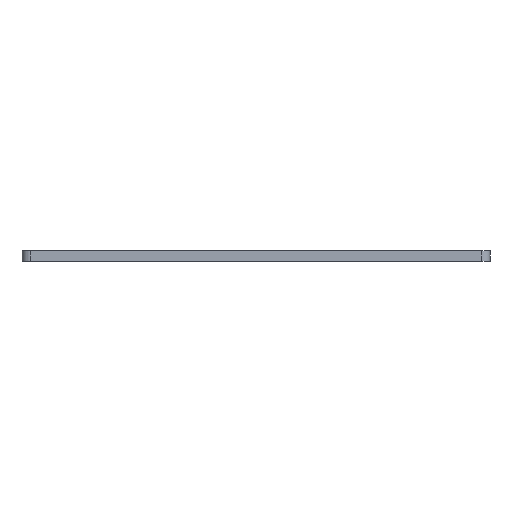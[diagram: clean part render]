
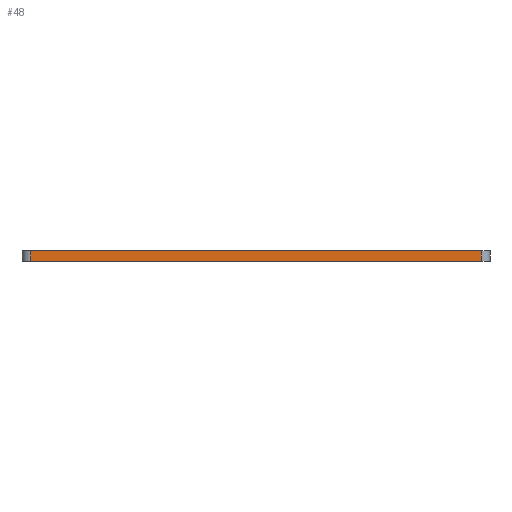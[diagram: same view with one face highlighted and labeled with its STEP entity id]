
A CAD part, front view. The second image highlights one B-rep face of the part: STEP entity #48.
In plain terms, the highlighted planar face has unit normal (0, -1, 0).
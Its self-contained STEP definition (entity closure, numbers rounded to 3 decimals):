
#14 = CARTESIAN_POINT ( 'NONE',  ( 0., -17.645, 3. ) ) ;
#48 = ADVANCED_FACE ( 'NONE', ( #649 ), #82, .F. ) ;
#57 = VECTOR ( 'NONE', #525, 1000. ) ;
#58 = CARTESIAN_POINT ( 'NONE',  ( 0., -17.645, 3. ) ) ;
#61 = ORIENTED_EDGE ( 'NONE', *, *, #440, .T. ) ;
#65 = LINE ( 'NONE', #476, #676 ) ;
#77 = DIRECTION ( 'NONE',  ( 0., 0., 1. ) ) ;
#82 = PLANE ( 'NONE',  #565 ) ;
#105 = VERTEX_POINT ( 'NONE', #145 ) ;
#145 = CARTESIAN_POINT ( 'NONE',  ( -147.467, -17.645, 3. ) ) ;
#163 = EDGE_CURVE ( 'NONE', #256, #390, #748, .T. ) ;
#170 = CARTESIAN_POINT ( 'NONE',  ( -21.467, -17.645, 3. ) ) ;
#210 = VERTEX_POINT ( 'NONE', #604 ) ;
#256 = VERTEX_POINT ( 'NONE', #170 ) ;
#281 = CARTESIAN_POINT ( 'NONE',  ( -21.467, -17.645, 0. ) ) ;
#283 = ORIENTED_EDGE ( 'NONE', *, *, #163, .F. ) ;
#372 = DIRECTION ( 'NONE',  ( 1., 0., 0. ) ) ;
#390 = VERTEX_POINT ( 'NONE', #281 ) ;
#395 = DIRECTION ( 'NONE',  ( 0., 1., 0. ) ) ;
#440 = EDGE_CURVE ( 'NONE', #210, #390, #679, .T. ) ;
#467 = CARTESIAN_POINT ( 'NONE',  ( -21.467, -17.645, 3. ) ) ;
#476 = CARTESIAN_POINT ( 'NONE',  ( -147.467, -17.645, 3. ) ) ;
#514 = VECTOR ( 'NONE', #707, 1000. ) ;
#525 = DIRECTION ( 'NONE',  ( 1., 0., 0. ) ) ;
#543 = EDGE_CURVE ( 'NONE', #105, #210, #65, .T. ) ;
#565 = AXIS2_PLACEMENT_3D ( 'NONE', #14, #395, #77 ) ;
#604 = CARTESIAN_POINT ( 'NONE',  ( -147.467, -17.645, 0. ) ) ;
#624 = EDGE_CURVE ( 'NONE', #105, #256, #770, .T. ) ;
#629 = ORIENTED_EDGE ( 'NONE', *, *, #543, .T. ) ;
#649 = FACE_OUTER_BOUND ( 'NONE', #681, .T. ) ;
#651 = CARTESIAN_POINT ( 'NONE',  ( 0., -17.645, 0. ) ) ;
#663 = DIRECTION ( 'NONE',  ( 0., 0., -1. ) ) ;
#676 = VECTOR ( 'NONE', #663, 1000. ) ;
#679 = LINE ( 'NONE', #651, #57 ) ;
#681 = EDGE_LOOP ( 'NONE', ( #61, #283, #778, #629 ) ) ;
#707 = DIRECTION ( 'NONE',  ( 0., 0., -1. ) ) ;
#748 = LINE ( 'NONE', #467, #514 ) ;
#751 = VECTOR ( 'NONE', #372, 1000. ) ;
#770 = LINE ( 'NONE', #58, #751 ) ;
#778 = ORIENTED_EDGE ( 'NONE', *, *, #624, .F. ) ;
